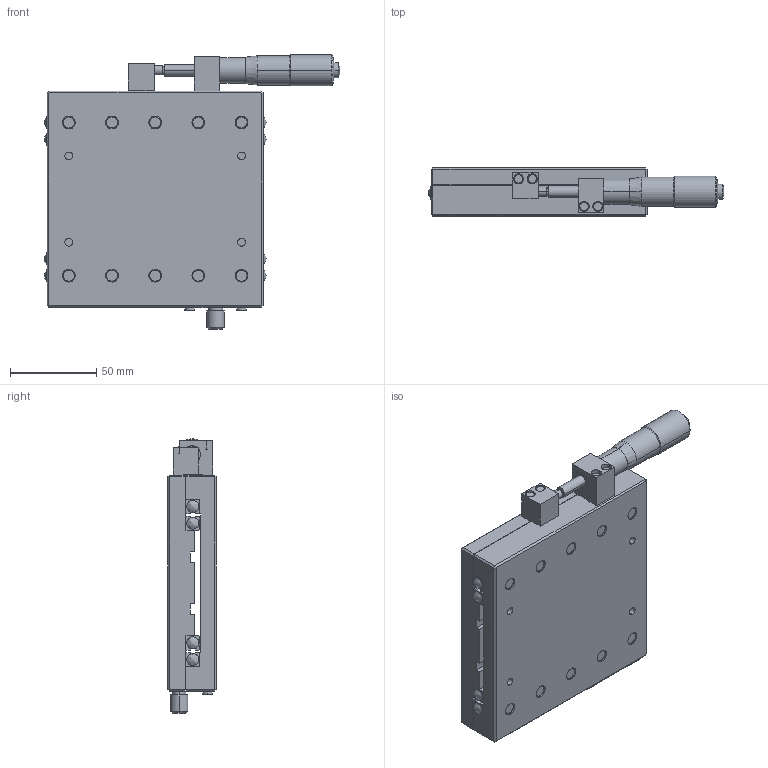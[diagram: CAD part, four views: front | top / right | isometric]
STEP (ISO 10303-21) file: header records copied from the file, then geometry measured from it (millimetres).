
FILE_DESCRIPTION (( 'STEP AP203' ), '1' );
FILE_NAME ('MX125-L.STEP', '2026-04-09T03:41:35', ( '' ), ( '' ), 'SwSTEP 2.0', 'SolidWorks 2021', '' );
FILE_SCHEMA (( 'CONFIG_CONTROL_DESIGN' ));
Length unit declared in the file: millimetre
Products named in the file (4): MX125-L; L125-L_XG; L125-L_SG; MT_WT_25_P_18
Assembly tree (3 placements, depth 2):
  MX125-L
    L125-L_XG
    L125-L_SG
    MT_WT_25_P_18
Bounding box: 171.36 x 28 x 158.8 mm (x, y, z)
Volume: 417359.1 mm3; surface area: 102881.2 mm2
Topology: 3 solids, 3 shells, 511 faces, 1162 edges, 737 vertices
Faces by surface type: plane 223, cylinder 210, bspline 48, cone 26, torus 4
Entity records: 15337 total; most frequent: CARTESIAN_POINT 3252, DIRECTION 2571, ORIENTED_EDGE 2316, EDGE_CURVE 1158, AXIS2_PLACEMENT_3D 984, VERTEX_POINT 737, EDGE_LOOP 609, LINE 603
